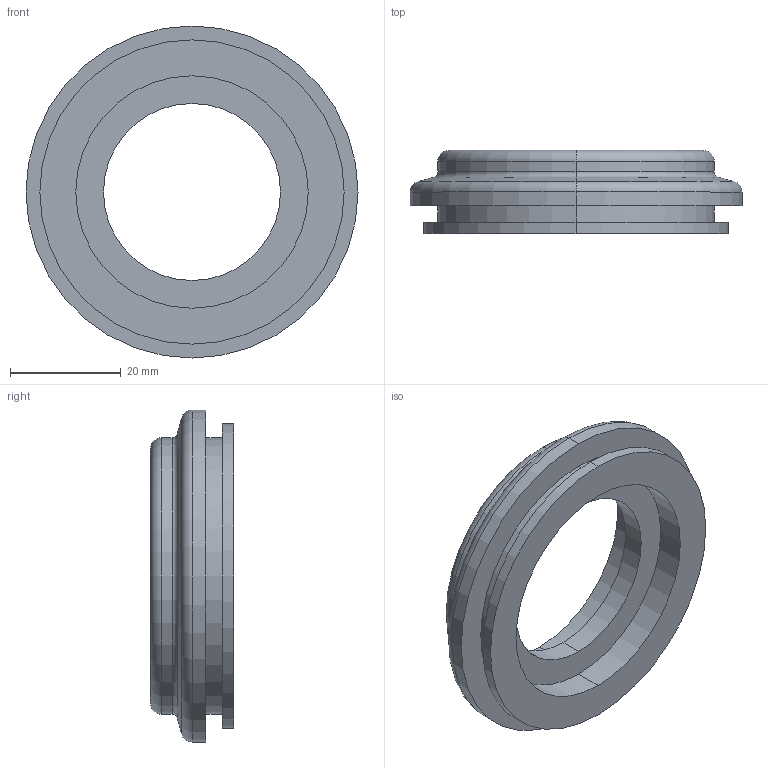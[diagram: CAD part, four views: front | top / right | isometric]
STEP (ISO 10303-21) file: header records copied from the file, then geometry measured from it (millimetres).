
FILE_DESCRIPTION (( 'STEP AP214' ), '1' );
FILE_NAME ('2026_4_2_インターロックパッキン上.STEP', '2026-04-03T05:45:55', ( '' ), ( '' ), 'SwSTEP 2.0', 'SolidWorks 2025', '' );
FILE_SCHEMA (( 'AUTOMOTIVE_DESIGN' ));
Length unit declared in the file: millimetre
Products named in the file (1): 2026_4_2_インターロックパッキン上
Bounding box: 60 x 15 x 60 mm (x, y, z)
Volume: 16437.9 mm3; surface area: 8707.6 mm2
Topology: 1 solids, 1 shells, 30 faces, 60 edges, 36 vertices
Faces by surface type: cylinder 14, torus 8, plane 6, cone 2
Entity records: 819 total; most frequent: DIRECTION 166, CARTESIAN_POINT 127, ORIENTED_EDGE 120, AXIS2_PLACEMENT_3D 75, EDGE_CURVE 60, CIRCLE 44, VERTEX_POINT 36, EDGE_LOOP 36
